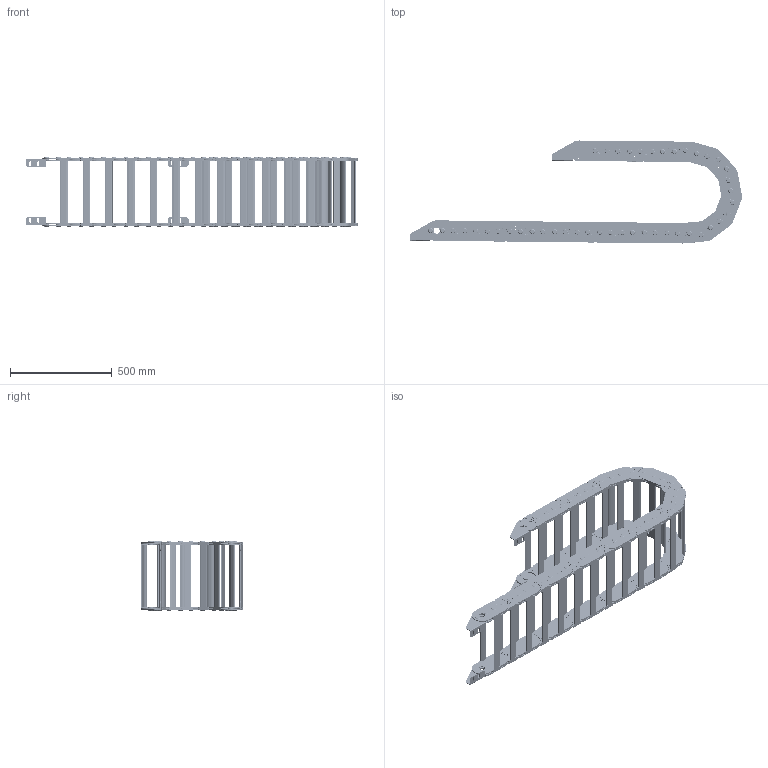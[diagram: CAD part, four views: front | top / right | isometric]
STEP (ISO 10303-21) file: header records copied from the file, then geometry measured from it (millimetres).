
FILE_DESCRIPTION((''),'2;1');
FILE_NAME('80GD-75-R200_ASM','2022-07-31T16:41:55',('admin'),(''),'CREO PARAMETRIC BY PTC INC, 2021164','CREO PARAMETRIC BY PTC INC, 2021164','');
FILE_SCHEMA(('CONFIG_CONTROL_DESIGN','GEOMETRIC_VALIDATION_PROPERTIES_MIM'));
Length unit declared in the file: millimetre
Products named in the file (5): 80-A; 80-B; 80-LTT; 80-LTT-2; 80GD-75-R200_ASM
Assembly tree (24 placements, depth 2):
  80GD-75-R200_ASM
    80-A  x11
    80-B  x11
    80-LTT
    80-LTT-2
Bounding box: 1627.46 x 504.42 x 340.6 mm (x, y, z)
Volume: 12954487.6 mm3; surface area: 3986542.6 mm2
Topology: 92 solids, 92 shells, 3900 faces, 10566 edges, 7162 vertices
Faces by surface type: cylinder 1728, plane 1556, torus 440, cone 176
Entity records: 21405 total; most frequent: DIRECTION 3086, CARTESIAN_POINT 2850, ORIENTED_EDGE 2732, EDGE_CURVE 1366, AXIS2_PLACEMENT_3D 1191, PRESENTATION_STYLE_ASSIGNMENT 1114, STYLED_ITEM 1114, VERTEX_POINT 922
